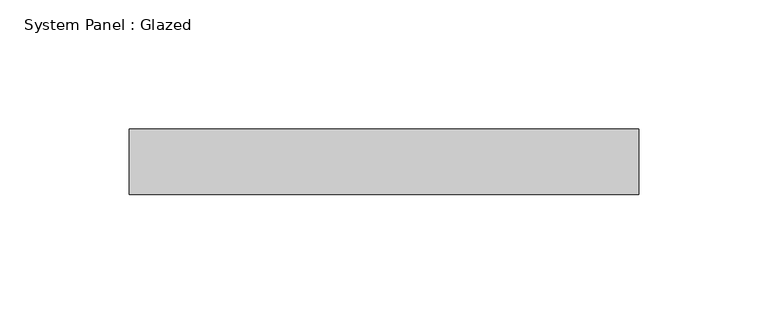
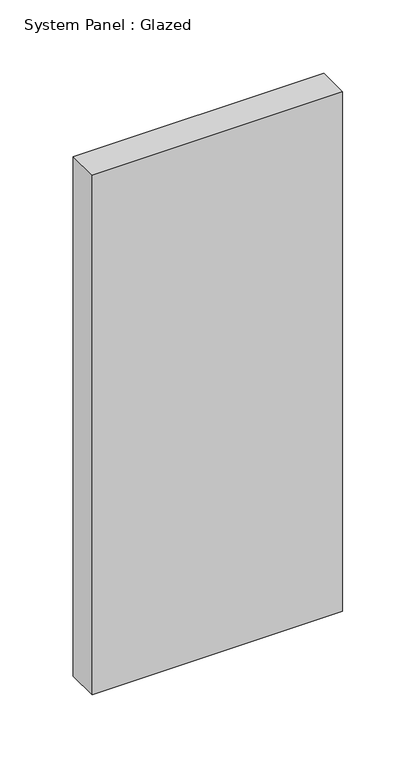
"""IFC4 building model written with IfcOpenShell, lengths in millimetres: plate geometry, System Panel : Glazed."""

from ifc_helpers import new_model, si_unit, origin, origin_with_axes, place, context, project, spatial, polyline, outline, extrude, source, transform, mapped, element, save


def system_panel_glazed_edee1c3a(model_context):
    return source(origin(), model_context, "Body", "SweptSolid", [
        extrude(outline(polyline([(98.5938309, -44.45), (-98.5938309, -44.45), (-98.5938309, -19.05), (98.5938309, -19.05), (98.5938309, -44.45)])), origin_with_axes(), (0.0, 0.0, 1.0), 431.8),
    ])


if __name__ == "__main__":
    model = new_model("IFC4")
    model_context = context("Model", 3, world=origin())
    ifc_project = project(units=[si_unit("LENGTHUNIT", "METRE", prefix="MILLI")], contexts=[model_context])
    site = spatial("IfcSite", under=ifc_project)
    building = spatial("IfcBuilding", under=site)
    placement = place(None, origin())
    system_panel_glazed_shape = system_panel_glazed_edee1c3a(model_context)
    element("IfcPlate", 1, ObjectType="System Panel : Glazed", at=placement, inside=building, context=model_context, shape_type="MappedRepresentation", body=[
        mapped(system_panel_glazed_shape, transform((0.0, 0.0, 0.0), x_axis=(1.0, 0.0, 0.0), y_axis=(0.0, 1.0, 0.0), z_axis=(0.0, 0.0, 1.0))),
    ])
    save(model, "model.ifc")
